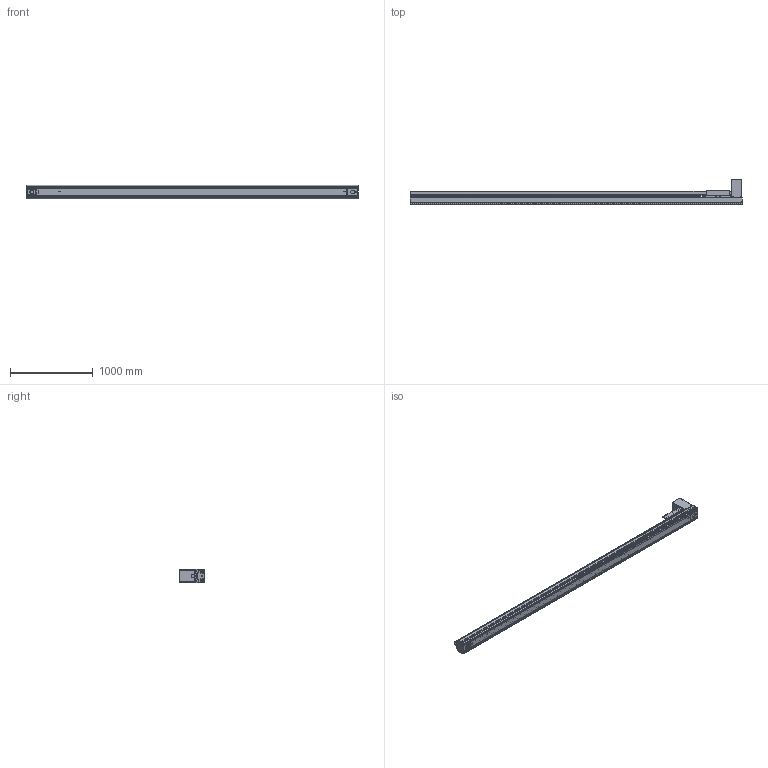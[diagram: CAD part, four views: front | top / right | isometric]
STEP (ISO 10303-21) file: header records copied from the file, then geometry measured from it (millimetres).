
FILE_DESCRIPTION((''),'2;1');
FILE_NAME('BE50G-BT-L19N-W45_IGS_PRT','2017-06-18T',(' '),(''),'PRO/ENGINEER BY PARAMETRIC TECHNOLOGY CORPORATION, 2015030','PRO/ENGINEER BY PARAMETRIC TECHNOLOGY CORPORATION, 2015030','');
FILE_SCHEMA(('CONFIG_CONTROL_DESIGN'));
Products named in the file (1): BE50G-BT-L19N-W45_IGS_PRT
Bounding box: 4020 x 309 x 160 mm (x, y, z)
Volume: 16303280.4 mm3; surface area: 7975742.3 mm2
Topology: 10 solids, 355 shells, 2291 faces, 6966 edges, 4755 vertices
Faces by surface type: cylinder 1341, plane 699, cone 208, sphere 23, torus 20
Entity records: 82086 total; most frequent: CARTESIAN_POINT 18714, DIRECTION 13313, ORIENTED_EDGE 12652, EDGE_CURVE 6892, AXIS2_PLACEMENT_3D 5081, VERTEX_POINT 4755, VECTOR 3151, LINE 3151
